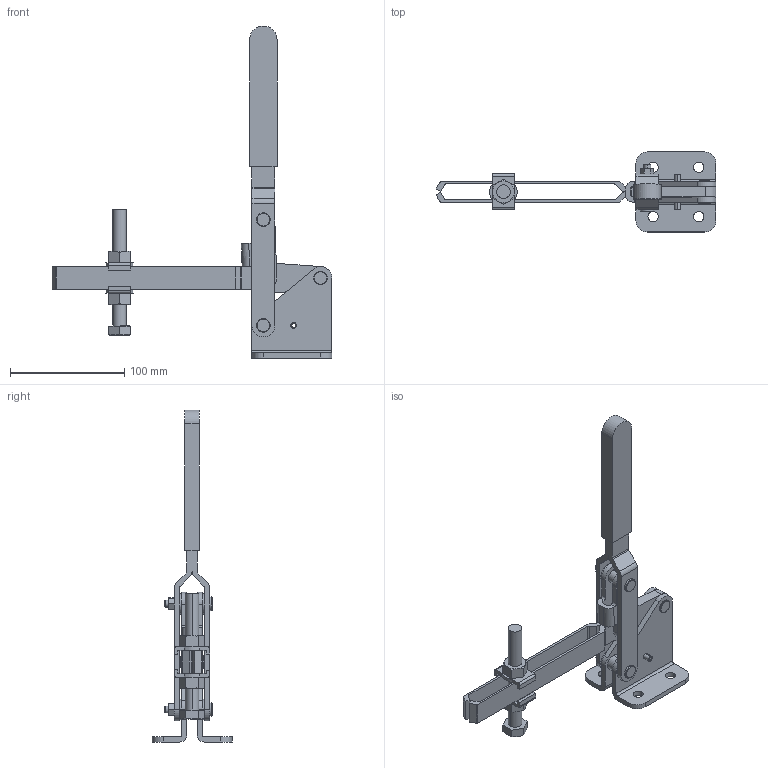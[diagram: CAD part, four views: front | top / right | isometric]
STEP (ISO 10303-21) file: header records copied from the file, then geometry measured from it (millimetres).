
FILE_DESCRIPTION(('CATIA V5 STEP Exchange'),'2;1');
FILE_NAME('D:\Model\toggle\toggle_standard\KJF_045_12F.stp','2005-06-24T05:16:17+00:00',('none'),('none'),'CATIA Version 5 Release 11 (IN-9)','CATIA V5 STEP AP203',' none');
FILE_SCHEMA(('CONFIG_CONTROL_DESIGN'));
Length unit declared in the file: millimetre
Products named in the file (1): Part1
Bounding box: 244.88 x 70 x 290.5 mm (x, y, z)
Volume: 192033.3 mm3; surface area: 101161.8 mm2
Topology: 24 solids, 24 shells, 384 faces, 942 edges, 618 vertices
Faces by surface type: cylinder 170, plane 168, cone 46
Entity records: 11056 total; most frequent: CARTESIAN_POINT 2423, ORIENTED_EDGE 1876, DIRECTION 1428, EDGE_CURVE 938, AXIS2_PLACEMENT_3D 679, VERTEX_POINT 618, EDGE_LOOP 464, VECTOR 462
